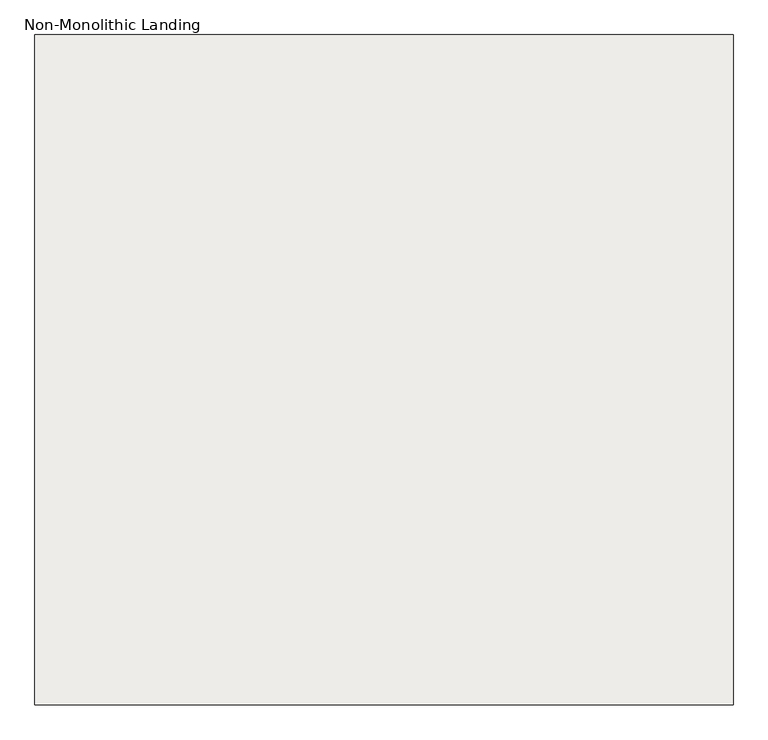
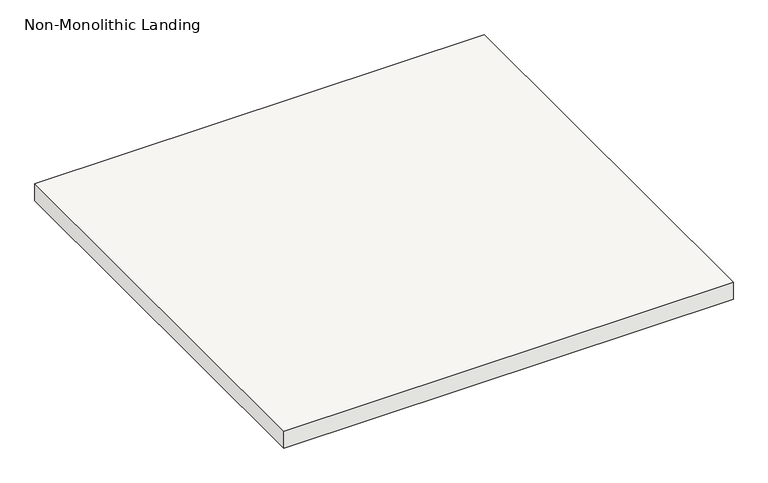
"""IFC4 building model written with IfcOpenShell, lengths in millimetres: slab geometry, Non-Monolithic Landing."""

import ifcopenshell
import ifcopenshell.guid

model = None  # the IFC model being written
_history = None  # IfcOwnerHistory: only IFC2X3 demands one
_inside = {}  # id of a spatial element -> (the spatial element, [elements in it])
_under = {}  # id of a project, library or spatial element -> (it, [spatial elements below it])
_declared = {}  # id of a project -> (the project, [libraries it declares])
_typed = {}  # id of a type object -> (the type object, [elements of that type])
_made_of = {}  # id of a material, layer set ... -> (it, [elements and type objects made of it])


def new_model(schema):
    """Start an empty IFC model of exactly this schema.

    Asked for "IFC4X3", IfcOpenShell would pick the latest addendum, in which some entities
    have other attributes; the version numbers below select the first issue.
    IFC2X3 requires an IfcOwnerHistory on every rooted entity: one is made here for all.
    """
    global model, _history
    if schema == "IFC4X3":
        model = ifcopenshell.file(schema_version=(4, 3, 0, 0))
    else:
        model = ifcopenshell.file(schema=schema)
    _inside.clear()
    _under.clear()
    _declared.clear()
    _typed.clear()
    _made_of.clear()
    _history = None
    if model.schema == "IFC2X3":
        org = make("IfcOrganization", Name="unknown")
        user = make(
            "IfcPersonAndOrganization",
            ThePerson=make("IfcPerson", FamilyName="unknown"),
            TheOrganization=org,
        )
        app = make(
            "IfcApplication",
            ApplicationDeveloper=org,
            Version="unknown",
            ApplicationFullName="unknown",
            ApplicationIdentifier="unknown",
        )
        _history = make(
            "IfcOwnerHistory",
            OwningUser=user,
            OwningApplication=app,
            ChangeAction="ADDED",
            CreationDate=0,
        )
    return model


def make(cls, **values):
    """One entity of the class cls with the attributes given. An attribute that is None is left unset."""
    return model.create_entity(
        cls, **{name: value for name, value in values.items() if value is not None}
    )


def rooted(cls, **values):
    """An entity with a GlobalId (a new one), such as an element, a storey or a relation."""
    return make(cls, GlobalId=ifcopenshell.guid.new(), OwnerHistory=_history, **values)


def si_unit(unit_type, name, prefix=None):
    """IfcSIUnit, for example si_unit("LENGTHUNIT", "METRE", prefix="MILLI")."""
    return make("IfcSIUnit", UnitType=unit_type, Prefix=prefix, Name=name)


def assignment(units):
    """IfcUnitAssignment: the units of a project."""
    return None if units is None else make("IfcUnitAssignment", Units=units)


def point(xyz):
    """IfcCartesianPoint."""
    return None if xyz is None else make("IfcCartesianPoint", Coordinates=xyz)


def direction(xyz):
    """IfcDirection."""
    return None if xyz is None else make("IfcDirection", DirectionRatios=xyz)


def frame(location, z_axis=None, x_axis=None):
    """IfcAxis2Placement3D, a coordinate frame: its origin and axes. An axis left out is left unset."""
    return make(
        "IfcAxis2Placement3D",
        Location=point(location),
        Axis=direction(z_axis),
        RefDirection=direction(x_axis),
    )


def origin():
    """The frame at (0, 0, 0) with its axes left unset."""
    return frame((0.0, 0.0, 0.0))


def place(relative_to, where):
    """IfcLocalPlacement: puts the frame where relative to a parent placement (None: the world)."""
    return make(
        "IfcLocalPlacement", PlacementRelTo=relative_to, RelativePlacement=where
    )


def context(
    kind, dimensions, precision=None, world=None, true_north=None, identifier=None
):
    """IfcGeometricRepresentationContext, for example the 3D "Model" context."""
    return make(
        "IfcGeometricRepresentationContext",
        ContextIdentifier=identifier,
        ContextType=kind,
        CoordinateSpaceDimension=dimensions,
        Precision=precision,
        WorldCoordinateSystem=world,
        TrueNorth=true_north,
    )


def project(units=None, contexts=None):
    """IfcProject with its units and contexts."""
    return rooted(
        "IfcProject",
        Name="project",
        RepresentationContexts=contexts,
        UnitsInContext=assignment(units),
    )


def spatial(cls, under=None, at=None, **own):
    """A site, building, storey or space (cls), placed at a placement, below another one or the project."""
    s = rooted(cls, ObjectPlacement=at, **own)
    if under is not None:
        _under.setdefault(under.id(), (under, []))[1].append(s)
    return s


def polyline(points):
    """IfcPolyline through the points."""
    return make("IfcPolyline", Points=[point(p) for p in points])


def outline(outer, holes=None, kind="AREA"):
    """IfcArbitraryClosedProfileDef: a profile drawn as a closed curve; with holes, ...WithVoids."""
    if holes is None:
        return make("IfcArbitraryClosedProfileDef", ProfileType=kind, OuterCurve=outer)
    return make(
        "IfcArbitraryProfileDefWithVoids",
        ProfileType=kind,
        OuterCurve=outer,
        InnerCurves=holes,
    )


def extrude(swept, where, along, depth):
    """IfcExtrudedAreaSolid: the profile swept, set in the frame where, extruded along a direction by depth."""
    return make(
        "IfcExtrudedAreaSolid",
        SweptArea=swept,
        Position=where,
        ExtrudedDirection=direction(along),
        Depth=depth,
    )


def shape(context_of_items, identifier, shape_type, items):
    """IfcShapeRepresentation: the items that make up one representation, for example the "Body"."""
    return make(
        "IfcShapeRepresentation",
        ContextOfItems=context_of_items,
        RepresentationIdentifier=identifier,
        RepresentationType=shape_type,
        Items=items,
    )


def source(mapping_origin, context_of_items, identifier, shape_type, items):
    """IfcRepresentationMap: a shape defined once, which mapped items show again and again."""
    return make(
        "IfcRepresentationMap",
        MappingOrigin=mapping_origin,
        MappedRepresentation=shape(context_of_items, identifier, shape_type, items),
    )


def transform(
    local_origin,
    x_axis=None,
    y_axis=None,
    z_axis=None,
    scale=None,
    scale2=None,
    scale3=None,
    uniform=True,
):
    """IfcCartesianTransformationOperator3D, or its non-uniform kind. x_axis, y_axis, z_axis: its Axis1, 2, 3."""
    if uniform:
        return make(
            "IfcCartesianTransformationOperator3D",
            Axis1=direction(x_axis),
            Axis2=direction(y_axis),
            LocalOrigin=point(local_origin),
            Scale=scale,
            Axis3=direction(z_axis),
        )
    return make(
        "IfcCartesianTransformationOperator3DnonUniform",
        Axis1=direction(x_axis),
        Axis2=direction(y_axis),
        LocalOrigin=point(local_origin),
        Scale=scale,
        Axis3=direction(z_axis),
        Scale2=scale2,
        Scale3=scale3,
    )


def mapped(mapping_source, mapping_target):
    """IfcMappedItem: shows the shape of a source again, moved by a transform."""
    return make(
        "IfcMappedItem", MappingSource=mapping_source, MappingTarget=mapping_target
    )


def made_of(thing, what):
    """Note that an element or type object is made of a material, layer set ...; save() writes the relation."""
    if what is not None:
        _made_of.setdefault(what.id(), (what, []))[1].append(thing)
    return thing


def element(
    cls,
    number,
    at=None,
    inside=None,
    cuts=None,
    type_object=None,
    material=None,
    context=None,
    identifier="Body",
    shape_type=None,
    held_by="IfcProductDefinitionShape",
    body=None,
    shapes=None,
    **own,
):
    """One element of the class cls, such as IfcWall. Its Tag is "e" and its number.

    at: its placement. inside: the storey or other place that contains it. cuts: it is an
    opening in that element (IfcRelVoidsElement). A single representation is given by context,
    identifier, shape_type and body (its items); several are given by shapes. held_by: the class
    of the entity that holds the representations. save() writes the other relations.
    """
    e = rooted(cls, Tag="e%d" % number, ObjectPlacement=at, **own)
    if body is not None:
        shapes = [shape(context, identifier, shape_type, body)]
    if shapes is not None:
        e.Representation = make(held_by, Representations=shapes)
    if inside is not None:
        _inside.setdefault(inside.id(), (inside, []))[1].append(e)
    if cuts is not None:
        rooted(
            "IfcRelVoidsElement", RelatingBuildingElement=cuts, RelatedOpeningElement=e
        )
    if type_object is not None:
        _typed.setdefault(type_object.id(), (type_object, []))[1].append(e)
    return made_of(e, material)


def aggregate(whole, parts):
    """IfcRelAggregates: a whole, such as a stair, and the parts it consists of."""
    return rooted("IfcRelAggregates", RelatingObject=whole, RelatedObjects=parts)


def save(model, path):
    """Write the relations noted so far, then the file.

    IfcRelAggregates (storeys below a building ...), IfcRelContainedInSpatialStructure (elements
    in a storey), IfcRelDefinesByType, IfcRelAssociatesMaterial and IfcRelDeclares: one each for
    every whole, place, type object, material and project.
    """
    for whole, parts in _under.values():
        aggregate(whole, parts)
    for where, things in _inside.values():
        rooted(
            "IfcRelContainedInSpatialStructure",
            RelatedElements=things,
            RelatingStructure=where,
        )
    for kind, things in _typed.values():
        rooted("IfcRelDefinesByType", RelatedObjects=things, RelatingType=kind)
    for what, things in _made_of.values():
        rooted("IfcRelAssociatesMaterial", RelatedObjects=things, RelatingMaterial=what)
    for by, libraries in _declared.values():
        rooted("IfcRelDeclares", RelatingContext=by, RelatedDefinitions=libraries)
    model.write(path)


def non_monolithic_landing_c6595e20(model_context):
    return source(origin(), model_context, "Body", "SweptSolid", [
        extrude(outline(polyline([(-74548.5913038, 12142.1710387), (-75798.5913038, 12142.1710387), (-75798.5913038, 13342.1710387), (-74548.5913038, 13342.1710387), (-74548.5913038, 12142.1710387)])), frame((0.0, 0.0, 43597.5), z_axis=(0.0, 0.0, 1.0), x_axis=(1.0, 0.0, 0.0)), (0.0, 0.0, 1.0), 50.0),
    ])


if __name__ == "__main__":
    model = new_model("IFC4")
    model_context = context("Model", 3, world=origin())
    ifc_project = project(units=[si_unit("LENGTHUNIT", "METRE", prefix="MILLI")], contexts=[model_context])
    site = spatial("IfcSite", under=ifc_project)
    building = spatial("IfcBuilding", under=site)
    placement = place(None, origin())
    non_monolithic_landing_shape = non_monolithic_landing_c6595e20(model_context)
    element("IfcSlab", 1, ObjectType="Non-Monolithic Landing", at=placement, inside=building, context=model_context, shape_type="MappedRepresentation", body=[
        mapped(non_monolithic_landing_shape, transform((0.0, 0.0, 0.0), x_axis=(1.0, 0.0, 0.0), y_axis=(0.0, 1.0, 0.0), z_axis=(0.0, 0.0, 1.0))),
    ])
    save(model, "model.ifc")
